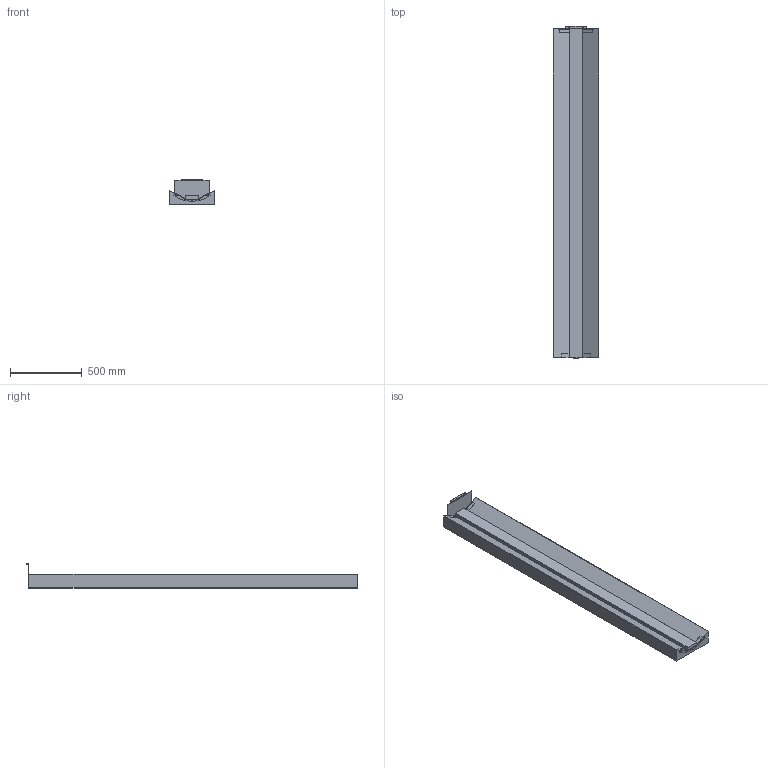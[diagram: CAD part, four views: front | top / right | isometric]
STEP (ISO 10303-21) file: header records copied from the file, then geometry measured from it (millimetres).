
FILE_DESCRIPTION(/* description */ (''),/* implementation_level */ '2;1');
FILE_NAME(/* name */ 'C:\Users\Giulia\Desktop\1270 BANNER 230.stp',/* time_stamp */ '2015-04-23T14:34:52+02:00',/* author */ ('Giulia'),/* organization */ (''),/* preprocessor_version */ 'ST-DEVELOPER v15.6',/* originating_system */ 'Autodesk Inventor 2015',/* authorisation */ '');
FILE_SCHEMA (('AUTOMOTIVE_DESIGN { 1 0 10303 214 3 1 1 }'));
Length unit declared in the file: centimetre
Products named in the file (1): 1270 BANNER 230
Bounding box: 320 x 2321.5 x 171.39 mm (x, y, z)
Volume: 46753185.6 mm3; surface area: 2233584 mm2
Topology: 1 solids, 1 shells, 137 faces, 350 edges, 218 vertices
Faces by surface type: plane 93, cylinder 40, bspline 4
Entity records: 4207 total; most frequent: CARTESIAN_POINT 845, ORIENTED_EDGE 700, DIRECTION 682, EDGE_CURVE 350, LINE 262, VECTOR 262, VERTEX_POINT 218, AXIS2_PLACEMENT_3D 210
